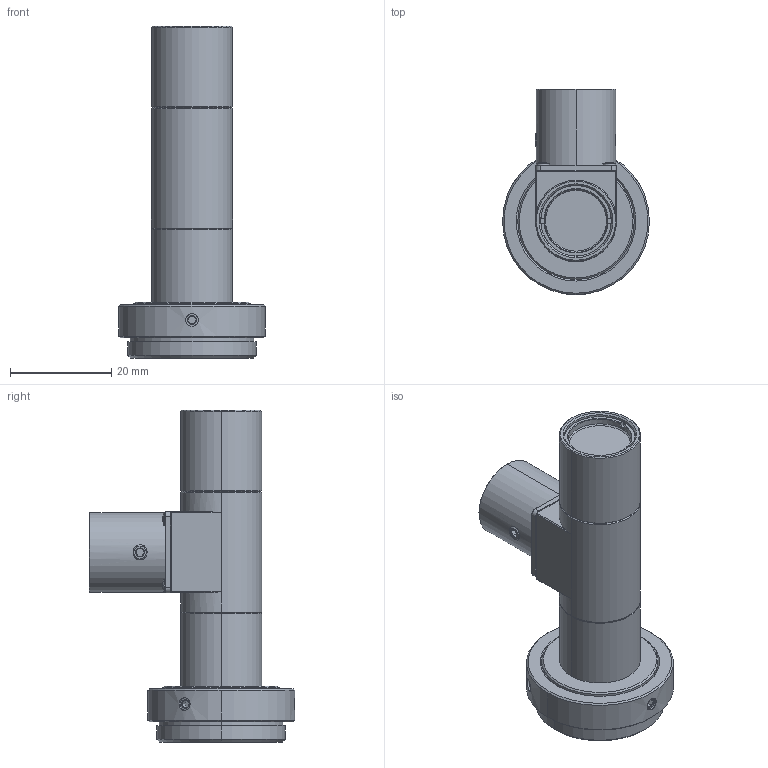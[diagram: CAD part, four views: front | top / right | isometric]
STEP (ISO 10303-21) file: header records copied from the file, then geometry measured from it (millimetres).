
FILE_DESCRIPTION (( 'STEP AP203' ), '1' );
FILE_NAME ('MML2-ST65DS_A03838A0100101A-001.STEP', '2013-12-12T00:32:48', ( 'SCHOTT' ), ( 'SCHOTT' ), 'SwSTEP 2.0', 'SolidWorks 2011', '' );
FILE_SCHEMA (( 'CONFIG_CONTROL_DESIGN' ));
Length unit declared in the file: millimetre
Products named in the file (1): MML2-ST65DS_A03838A0100101A-001
Bounding box: 29 x 40.5 x 65.54 mm (x, y, z)
Volume: 15224.8 mm3; surface area: 8093.4 mm2
Topology: 1 solids, 5 shells, 400 faces, 956 edges, 582 vertices
Faces by surface type: plane 173, cone 133, cylinder 70, torus 16, sphere 8
Entity records: 12151 total; most frequent: CARTESIAN_POINT 2864, DIRECTION 2008, ORIENTED_EDGE 1896, EDGE_CURVE 948, AXIS2_PLACEMENT_3D 836, VERTEX_POINT 582, CIRCLE 435, EDGE_LOOP 434
